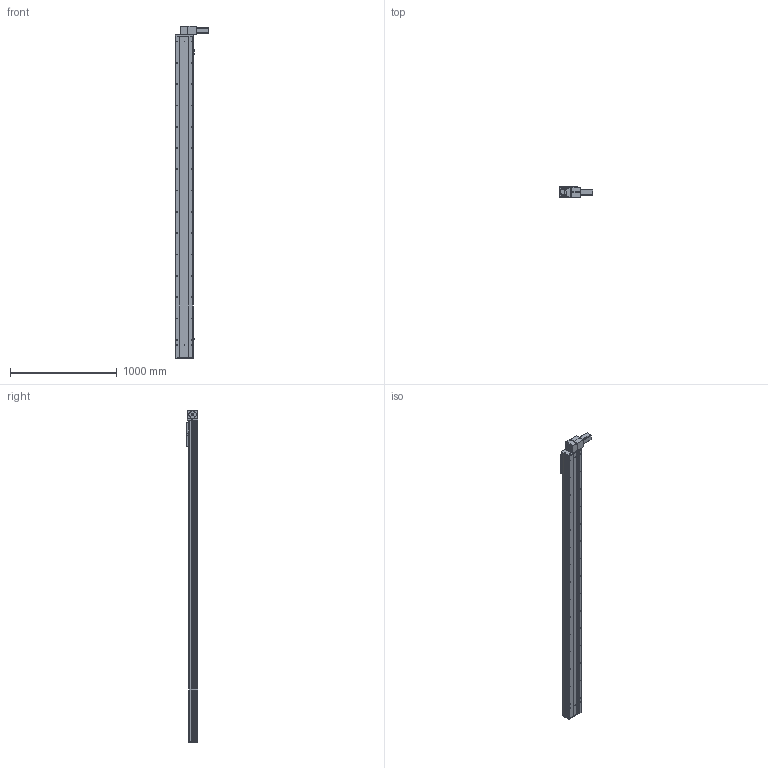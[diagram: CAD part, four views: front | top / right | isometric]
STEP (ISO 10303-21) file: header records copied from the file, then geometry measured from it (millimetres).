
FILE_DESCRIPTION (( 'STEP AP203' ), '1' );
FILE_NAME ('Y170CB-D105-S2700-BD-P400W.STEP', '2020-02-20T09:16:33', ( '微软用户' ), ( '微软中国' ), 'SwSTEP 2.0', 'SolidWorks 2017', '' );
FILE_SCHEMA (( 'CONFIG_CONTROL_DESIGN' ));
Length unit declared in the file: millimetre
Products named in the file (16): 70B喘謫眊----; 70C--詩湍揤踡え-; 0B薊粣ん眊-400W--; 70CB--耜裔; Y170CB-D105-S2700-BD-P400W; 70C-雄赽釱-奻-; 0C--雄赽釱俋欶-170; B-源倛裔啣; 70CB-詩湍--; san松下电机400不带刹车----; Y100-135俋离換覜ん--; 70CB-掛极-; Y170CB-陔俋离換覜結え---; --70CB --喘謫眊楊擘啣-; Y1埴倛裔; 70CB-耜裔啣-
Assembly tree (19 placements, depth 2):
  Y170CB-D105-S2700-BD-P400W
    B-源倛裔啣
    san松下电机400不带刹车----
    70CB-掛极-
    --70CB --喘謫眊楊擘啣-
    70CB-耜裔啣-  x2
    70C--詩湍揤踡え-  x2
    70CB--耜裔
    70C-雄赽釱-奻-
    0C--雄赽釱俋欶-170
    70CB-詩湍--
    Y100-135俋离換覜ん--  x3
    Y170CB-陔俋离換覜結え---
    Y1埴倛裔
    70B喘謫眊----
    0B薊粣ん眊-400W--
Bounding box: 313.5 x 107 x 3116 mm (x, y, z)
Volume: 13519705.8 mm3; surface area: 4753232.7 mm2
Topology: 19 solids, 19 shells, 992 faces, 2642 edges, 1752 vertices
Faces by surface type: cylinder 546, plane 422, cone 24
Entity records: 31347 total; most frequent: CARTESIAN_POINT 5866, DIRECTION 5103, ORIENTED_EDGE 4766, EDGE_CURVE 2383, AXIS2_PLACEMENT_3D 1901, VERTEX_POINT 1582, LINE 1301, VECTOR 1301
